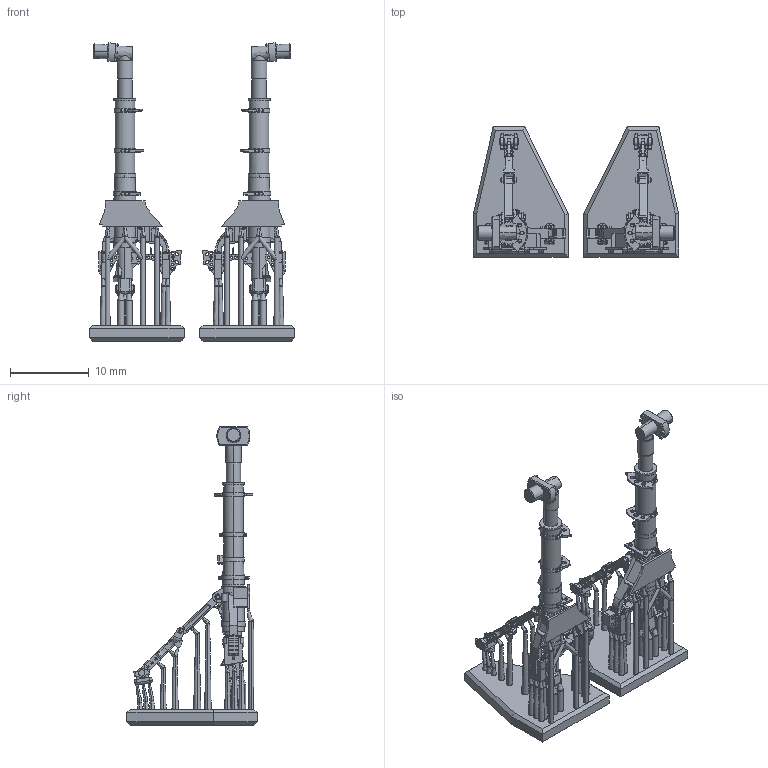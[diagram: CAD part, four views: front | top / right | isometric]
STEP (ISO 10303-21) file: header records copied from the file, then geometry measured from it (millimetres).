
FILE_DESCRIPTION(/* description */ (''),/* implementation_level */ '2;1');
FILE_NAME(/* name */ 'F6F-XL~2',/* time_stamp */ '2021-03-19T10:00:02+01:00',/* author */ (''),/* organization */ (''),/* preprocessor_version */ 'ST-DEVELOPER v16.5',/* originating_system */ '',/* authorisation */ '');
FILE_SCHEMA (('CONFIG_CONTROL_DESIGN'));
Products named in the file (1): Document
Bounding box: 26 x 16.5 x 37.79 mm (x, y, z)
Volume: 1160 mm3; surface area: 2783.8 mm2
Topology: 2 solids, 2 shells, 3272 faces, 8892 edges, 5618 vertices
Faces by surface type: plane 1736, cylinder 872, bspline 664
Entity records: 112111 total; most frequent: CARTESIAN_POINT 56910, ORIENTED_EDGE 17736, EDGE_CURVE 8868, VERTEX_POINT 5618, B_SPLINE_CURVE_WITH_KNOTS 4722, EDGE_LOOP 3618, ADVANCED_FACE 3272, FACE_OUTER_BOUND 3272
